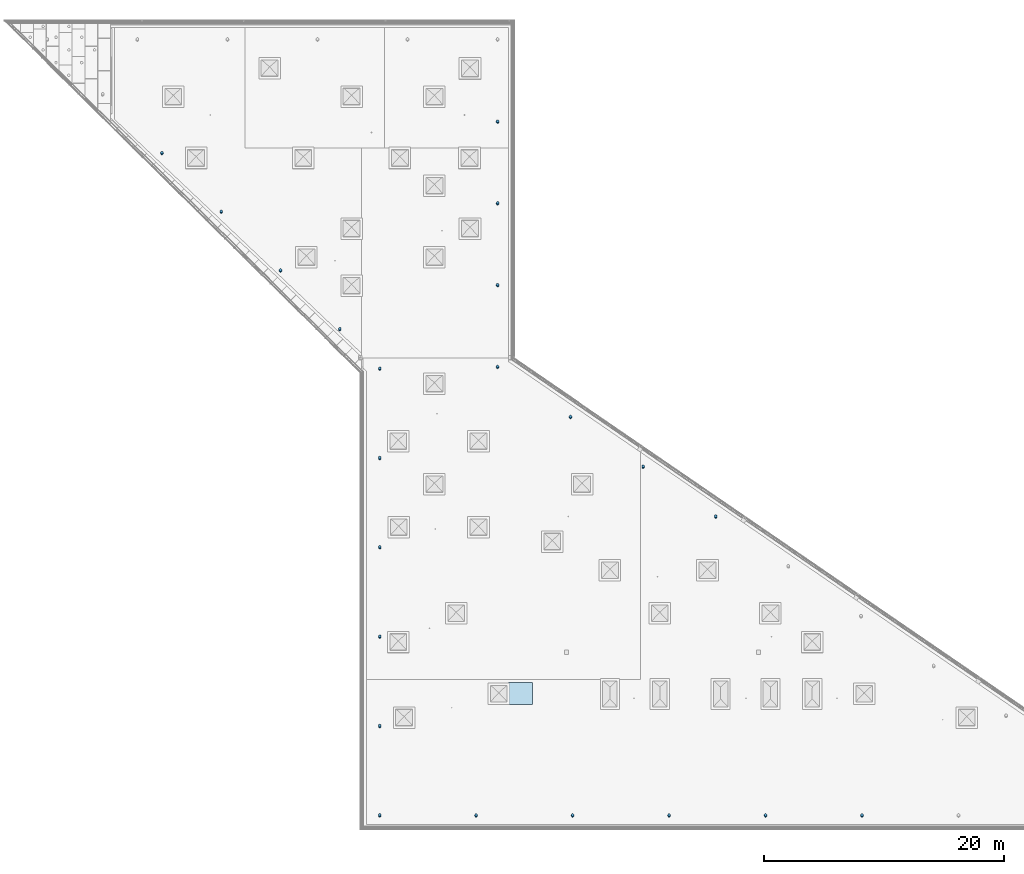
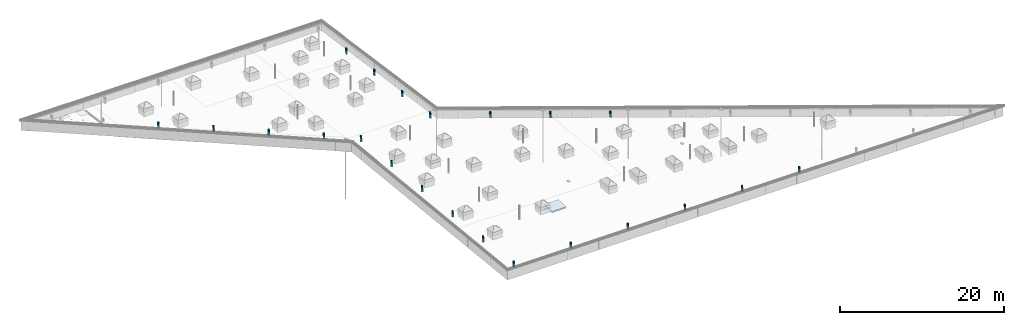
# One storey, part 1 of 51: 22 discrete accessories, 1 slab.
"""IFC2X3 building model written with IfcOpenShell, lengths in millimetres."""

from ifc_helpers import new_model, entity, si_unit, converted_unit, derived_unit, money_unit, direction, frame, origin_with_axes, place, context, subcontext, project, spatial, faceted_brep, source, transform, mapped, material, type_object, element, save


model = new_model("IFC2X3")

# Units and contexts
model_context = context("Model", 3, precision=0.01, world=origin_with_axes(), true_north=direction((0.0, 1.0)))
body_context = subcontext(model_context, "Body", "Model", "MODEL_VIEW")
ifc_project = project(units=[si_unit("LENGTHUNIT", "METRE", prefix="MILLI"), si_unit("AREAUNIT", "SQUARE_METRE"), si_unit("VOLUMEUNIT", "CUBIC_METRE"), converted_unit("PLANEANGLEUNIT", "DEGREE", entity("IfcPlaneAngleMeasure", 0.0174532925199), si_unit("PLANEANGLEUNIT", "RADIAN"), dimensions=[0, 0, 0, 0, 0, 0, 0]), si_unit("SOLIDANGLEUNIT", "STERADIAN"), money_unit("EUR"), converted_unit("TIMEUNIT", "Year", entity("IfcTimeMeasure", 31556926.0), si_unit("TIMEUNIT", "SECOND"), dimensions=[0, 0, 1, 0, 0, 0, 0]), si_unit("MASSUNIT", "GRAM", prefix="KILO"), si_unit("THERMODYNAMICTEMPERATUREUNIT", "DEGREE_CELSIUS"), si_unit("LUMINOUSINTENSITYUNIT", "LUMEN"), si_unit("ENERGYUNIT", "JOULE", prefix="MEGA"), derived_unit("THERMALCONDUCTANCEUNIT", [(si_unit("POWERUNIT", "WATT"), 1), (si_unit("LENGTHUNIT", "METRE"), -1), (si_unit("THERMODYNAMICTEMPERATUREUNIT", "KELVIN"), -1)]), derived_unit("SPECIFICHEATCAPACITYUNIT", [(si_unit("ENERGYUNIT", "JOULE"), 1), (si_unit("MASSUNIT", "GRAM", prefix="KILO"), -1), (si_unit("THERMODYNAMICTEMPERATUREUNIT", "KELVIN"), -1)]), derived_unit("MASSDENSITYUNIT", [(si_unit("MASSUNIT", "GRAM", prefix="KILO"), 1), (si_unit("VOLUMEUNIT", "CUBIC_METRE"), -1)])], contexts=[model_context])

# Site, building, storey
site_placement = place(None, origin_with_axes())
site = spatial("IfcSite", under=ifc_project, at=site_placement, Name="L.Koidula tn 11b", CompositionType="ELEMENT")
building_placement = place(site_placement, origin_with_axes())
building = spatial("IfcBuilding", under=site, at=building_placement, Name="Rakvere Riigigümnaasium", CompositionType="ELEMENT")
storey_placement = place(building_placement, frame((0.0, 0.0, 11240.0), z_axis=(0.0, 0.0, 1.0), x_axis=(1.0, 0.0, 0.0)))
storey = spatial("IfcBuildingStorey", under=building, at=storey_placement, Name="Katusekorrus", CompositionType="ELEMENT", Elevation=11240.0)

# Slab
ifc_material_1 = material(Name="Betoon")
slab_type = type_object("IfcSlabType", Name="Betoon 200", PredefinedType="NOTDEFINED")
slab_placement = place(storey_placement, frame((47199.999997, 15300.4785302, 0.0), z_axis=(0.0, 0.0, 1.0), x_axis=(1.0, 0.0, 0.0)))
element("IfcSlab", 1, at=slab_placement, inside=storey, type_object=slab_type, material=ifc_material_1, Name="Vahelagi", PredefinedType="NOTDEFINED", context=body_context, shape_type="Brep", body=[
    faceted_brep([(0.0, 0.0, 0.0), (0.0, 0.0, -200.0), (2000.0000066, 0.0, -200.0), (2000.0000066, 0.0, 0.0), (0.0, 1809.97697903, 0.0), (0.0, 1809.97697903, -200.0), (2000.0000066, 1809.97697903, -200.0), (2000.0000066, 1809.97697903, 0.0)], [[[0, 1, 2, 3]], [[4, 5, 1, 0]], [[2, 1, 5, 6]], [[3, 2, 6, 7]], [[4, 0, 3, 7]], [[7, 6, 5, 4]]]),
])

# Discrete accessories
ifc_material_2 = material(Name="Alumiinium (RAL 7021)")
discrete_accessory_type = type_object("IfcDiscreteAccessoryType", Name="Katusepollar")
shared_shape = source(origin_with_axes(), body_context, "Body", "Brep", [
    faceted_brep([(33.3898269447, 33.206913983, 20.3423021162), (33.3898269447, 116.829683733, 815.959818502), (8.6777332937, 153.611341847, 812.093910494), (8.6777332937, 69.9885720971, 16.4763941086), (70.3740887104, 8.63019576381, 22.9254192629), (70.3740887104, 92.252965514, 818.542935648), (114.0, 83.6227697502, 819.450005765), (157.62591129, 92.252965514, 818.542935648), (194.610173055, 116.829683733, 815.959818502), (219.322266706, 153.611341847, 812.093910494), (228.0, 196.998265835, 807.533761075), (219.322266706, 240.385189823, 802.973611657), (194.610173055, 277.166847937, 799.107703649), (157.62591129, 301.743566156, 796.524586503), (114.0, 310.37376192, 795.617516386), (70.3740887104, 301.743566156, 796.524586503), (33.3898269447, 277.166847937, 799.107703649), (8.6777332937, 240.385189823, 802.973611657), (0.0, 196.998265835, 807.533761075), (0.0, 113.375496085, 11.91624469), (8.6777332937, 156.762420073, 7.35609527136), (33.3898269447, 193.544078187, 3.49018726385), (70.3740887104, 218.120796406, 0.907070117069), (114.0, 226.75099217, 6.03961325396e-10), (157.62591129, 218.120796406, 0.907070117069), (194.610173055, 193.544078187, 3.49018726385), (219.322266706, 156.762420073, 7.35609527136), (228.0, 113.375496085, 11.91624469), (219.322266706, 69.9885720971, 16.4763941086), (194.610173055, 33.206913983, 20.3423021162), (157.62591129, 8.63019576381, 22.9254192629), (114.0, 0.0, 23.8324893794)], [[[0, 1, 2, 3]], [[1, 0, 4, 5]], [[2, 1, 5, 6, 7, 8, 9, 10, 11, 12, 13, 14, 15, 16, 17, 18]], [[3, 2, 18, 19]], [[0, 3, 19, 20, 21, 22, 23, 24, 25, 26, 27, 28, 29, 30, 31, 4]], [[4, 31, 6, 5]], [[31, 30, 7, 6]], [[7, 30, 29, 8]], [[8, 29, 28, 9]], [[9, 28, 27, 10]], [[27, 26, 11, 10]], [[11, 26, 25, 12]], [[24, 13, 12, 25]], [[13, 24, 23, 14]], [[22, 15, 14, 23]], [[21, 16, 15, 22]], [[20, 17, 16, 21]], [[20, 19, 18, 17]]]),
])
for number, where, z_axis, x_axis, name in (
    (2, (36386.0000521, 5913.50455028, 1149.02362672), (0.0, 0.0, 1.0), (1.0, 0.0, 0.0), "KP-1"),
    (3, (44396.6204458, 5913.50455028, 1149.02362672), (0.0, 0.0, 1.0), (1.0, 0.0, 0.0), "KP-1"),
    (4, (52421.6204458, 5913.50455028, 1149.02362672), (0.0, 0.0, 1.0), (1.0, 0.0, 0.0), "KP-1"),
    (5, (60446.6204458, 5913.50455028, 1149.02362672), (0.0, 0.0, 1.0), (1.0, 0.0, 0.0), "KP-1"),
    (6, (68471.6204458, 5913.50455028, 1149.02362672), (0.0, 0.0, 1.0), (1.0, 0.0, 0.0), "KP-1"),
    (7, (76496.6204458, 5913.50455028, 1149.02362672), (0.0, 0.0, 1.0), (1.0, 0.0, 0.0), "KP-1"),
    (8, (64327.974122, 30773.1224305, -1459.8553123), (0.0, 0.0, 1.0), (1.0, 0.0, 0.0), "KP-1"),
    (9, (58287.3664013, 34916.3920772, -1895.23880173), (0.0, 0.0, 1.0), (1.0, 0.0, 0.0), "KP-1"),
    (10, (52246.7586807, 39059.6617239, -2330.62229109), (0.0, 0.0, 1.0), (1.0, 0.0, 0.0), "KP-1"),
    (11, (46183.0000555, 43218.8106405, -2767.67440753), (0.0, 0.0, 1.0), (1.0, 0.0, 0.0), "KP-1"),
    (12, (36386.0000521, 13351.4598886, 371.659333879), (0.0, 0.0, 1.0), (1.0, 0.0, 0.0), "KP-1"),
    (13, (36386.0000521, 20781.4598886, -409.265125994), (0.0, 0.0, 1.0), (1.0, 0.0, 0.0), "KP-1"),
    (14, (36386.0000521, 28211.4598886, -1190.18958587), (0.0, 0.0, 1.0), (1.0, 0.0, 0.0), "KP-1"),
    (15, (36386.0000521, 35641.4598886, -1971.11404575), (0.0, 0.0, 1.0), (1.0, 0.0, 0.0), "KP-1"),
    (16, (36386.0000521, 43071.4598886, -2752.03850563), (0.0, 0.0, 1.0), (1.0, 0.0, 0.0), "KP-1"),
    (17, (33064.7641354, 46358.4133591, -3189.70117195), (0.0, 0.0, 1.0), (1.0, 0.0, 0.0), "KP-1"),
    (18, (28132.0508954, 51240.2101688, -3884.48371741), (0.0, 0.0, 1.0), (1.0, 0.0, 0.0), "KP-1"),
    (19, (23199.3376554, 56122.0069786, -4575.0), (0.0, 0.0, 1.0), (1.0, 0.0, 0.0), "KP-1"),
    (20, (18266.6244153, 61003.8037883, -5274.04880832), (0.0, 0.0, 1.0), (1.0, 0.0, 0.0), "KP-1"),
    (21, (46183.0000555, 63618.8106405, -5646.21955423), (0.0, 0.0, 1.0), (1.0, 0.0, 0.0), "KP-1"),
    (22, (46183.0000555, 56818.8106405, -4678.43623939), (0.0, 0.0, 1.0), (1.0, 0.0, 0.0), "KP-1"),
    (23, (46183.0000555, 50018.8106405, -3710.65292461), (0.0, 0.0, 1.0), (1.0, 0.0, 0.0), "KP-1"),
):
    element("IfcDiscreteAccessory", number, at=place(storey_placement, frame(where, z_axis=z_axis, x_axis=x_axis)), inside=storey, type_object=discrete_accessory_type, material=ifc_material_2, Name=name, context=body_context, shape_type="MappedRepresentation", body=[
        mapped(shared_shape, transform((0.0, 0.0, 0.0))),
    ])

save(model, "model.ifc")
